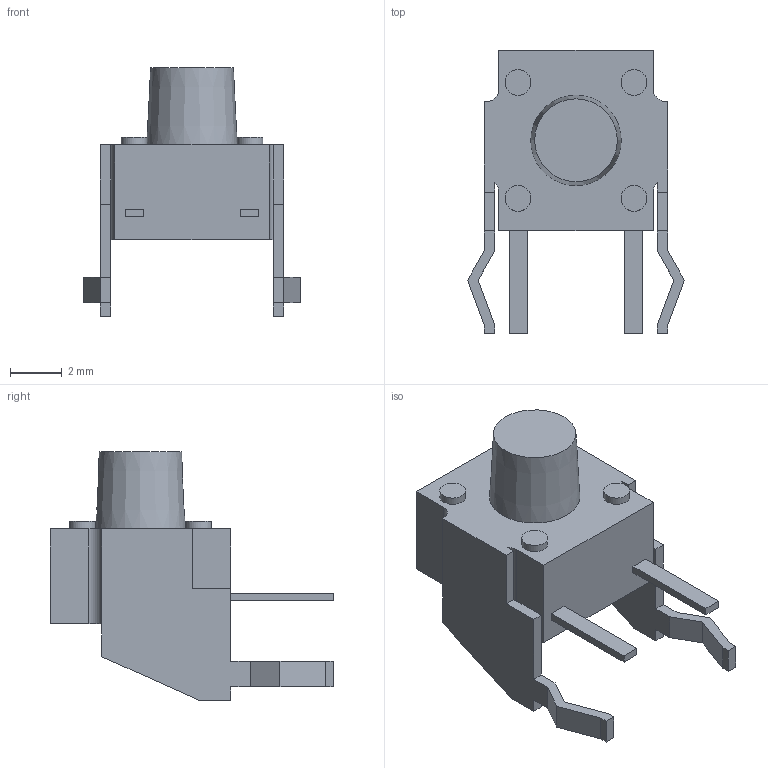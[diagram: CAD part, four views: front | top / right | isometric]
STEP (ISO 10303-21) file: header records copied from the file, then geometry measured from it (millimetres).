
FILE_DESCRIPTION(/* description */ (''),/* implementation_level */ '2;1');
FILE_NAME(/* name */ '/Users/raybechard/Desktop/push button.step',/* time_stamp */ '2019-07-02T12:06:07-04:00',/* author */ (''),/* organization */ (''),/* preprocessor_version */ 'ST-DEVELOPER v18',/* originating_system */ 'Autodesk Translation Framework v8.2.0.1029',/* authorisation */ '');
FILE_SCHEMA (('AUTOMOTIVE_DESIGN { 1 0 10303 214 3 1 1 }'));
Length unit declared in the file: millimetre
Products named in the file (2): button ajustable; button v2
Assembly tree (1 placements, depth 2):
  button ajustable
    button v2
Bounding box: 8.41 x 11.01 x 9.66 mm (x, y, z)
Volume: 212.9 mm3; surface area: 333.6 mm2
Topology: 1 solids, 1 shells, 70 faces, 183 edges, 122 vertices
Faces by surface type: plane 61, cylinder 8, cone 1
Full cylindrical faces by diameter (mm): 1 x4
Entity records: 2181 total; most frequent: CARTESIAN_POINT 378, ORIENTED_EDGE 366, DIRECTION 350, EDGE_CURVE 183, LINE 162, VECTOR 162, VERTEX_POINT 122, AXIS2_PLACEMENT_3D 94
